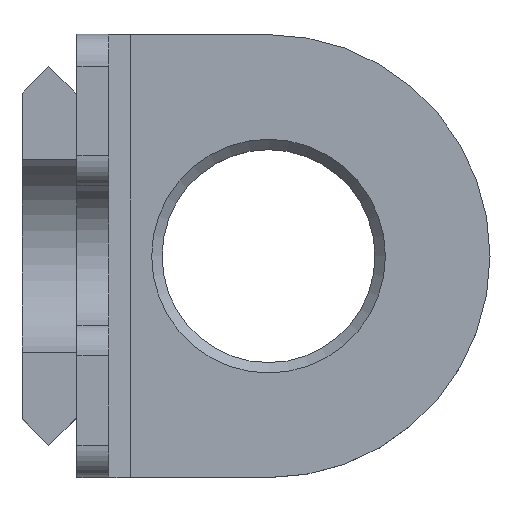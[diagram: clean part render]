
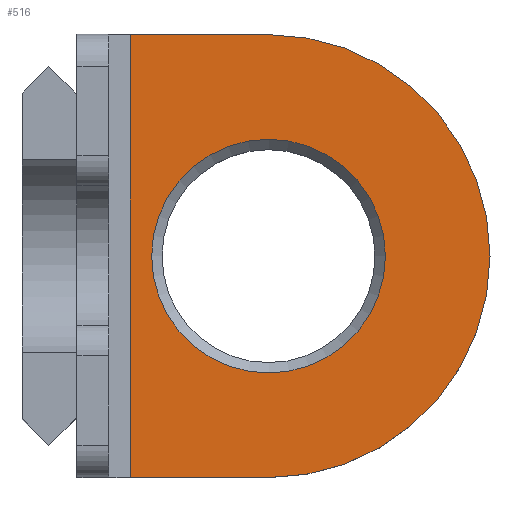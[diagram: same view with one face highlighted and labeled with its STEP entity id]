
A CAD part, top view. The second image highlights one B-rep face of the part: STEP entity #516.
In plain terms, the highlighted planar face has unit normal (0, 0, 1).
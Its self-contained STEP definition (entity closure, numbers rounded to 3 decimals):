
#23=FACE_BOUND('',#77,.T.);
#26=PLANE('',#561);
#47=FACE_OUTER_BOUND('',#76,.T.);
#76=EDGE_LOOP('',(#368,#369,#370,#371));
#77=EDGE_LOOP('',(#372));
#108=LINE('',#766,#166);
#109=LINE('',#768,#167);
#110=LINE('',#771,#168);
#166=VECTOR('',#615,10.);
#167=VECTOR('',#616,10.);
#168=VECTOR('',#619,10.);
#223=CIRCLE('',#559,10.974);
#225=CIRCLE('',#562,20.8);
#240=VERTEX_POINT('',#758);
#242=VERTEX_POINT('',#764);
#243=VERTEX_POINT('',#765);
#244=VERTEX_POINT('',#767);
#245=VERTEX_POINT('',#769);
#289=EDGE_CURVE('',#240,#240,#223,.T.);
#292=EDGE_CURVE('',#242,#243,#108,.F.);
#293=EDGE_CURVE('',#242,#244,#109,.T.);
#294=EDGE_CURVE('',#244,#245,#225,.T.);
#295=EDGE_CURVE('',#245,#243,#110,.T.);
#368=ORIENTED_EDGE('',*,*,#292,.F.);
#369=ORIENTED_EDGE('',*,*,#293,.T.);
#370=ORIENTED_EDGE('',*,*,#294,.T.);
#371=ORIENTED_EDGE('',*,*,#295,.T.);
#372=ORIENTED_EDGE('',*,*,#289,.F.);
#516=ADVANCED_FACE('',(#47,#23),#26,.F.);
#559=AXIS2_PLACEMENT_3D('',#759,#608,#609);
#561=AXIS2_PLACEMENT_3D('',#763,#613,#614);
#562=AXIS2_PLACEMENT_3D('',#770,#617,#618);
#608=DIRECTION('center_axis',(0.,0.,1.));
#609=DIRECTION('ref_axis',(1.,0.,0.));
#613=DIRECTION('center_axis',(0.,0.,-1.));
#614=DIRECTION('ref_axis',(1.,0.,0.));
#615=DIRECTION('',(0.,-1.,0.));
#616=DIRECTION('',(1.,0.,0.));
#617=DIRECTION('center_axis',(0.,0.,1.));
#618=DIRECTION('ref_axis',(1.,0.,0.));
#619=DIRECTION('',(-1.,0.,0.));
#758=CARTESIAN_POINT('',(103.176,0.,-198.15));
#759=CARTESIAN_POINT('Origin',(114.15,0.,-198.15));
#763=CARTESIAN_POINT('Origin',(115.55,0.,-198.15));
#764=CARTESIAN_POINT('',(101.176,-20.8,-198.15));
#765=CARTESIAN_POINT('',(101.176,20.8,-198.15));
#766=CARTESIAN_POINT('',(101.176,0.,-198.15));
#767=CARTESIAN_POINT('',(114.15,-20.8,-198.15));
#768=CARTESIAN_POINT('',(99.15,-20.8,-198.15));
#769=CARTESIAN_POINT('',(114.15,20.8,-198.15));
#770=CARTESIAN_POINT('Origin',(114.15,0.,-198.15));
#771=CARTESIAN_POINT('',(96.15,20.8,-198.15));
